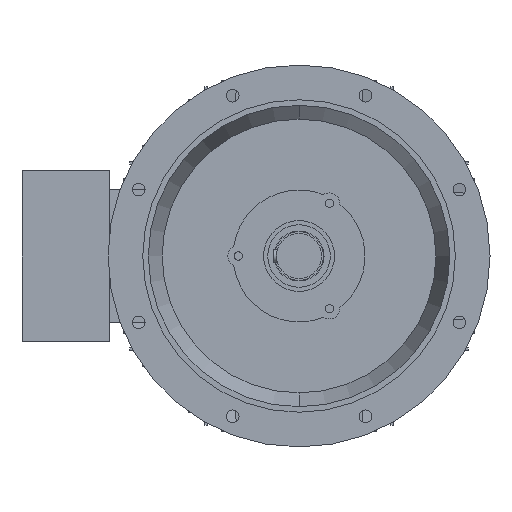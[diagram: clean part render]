
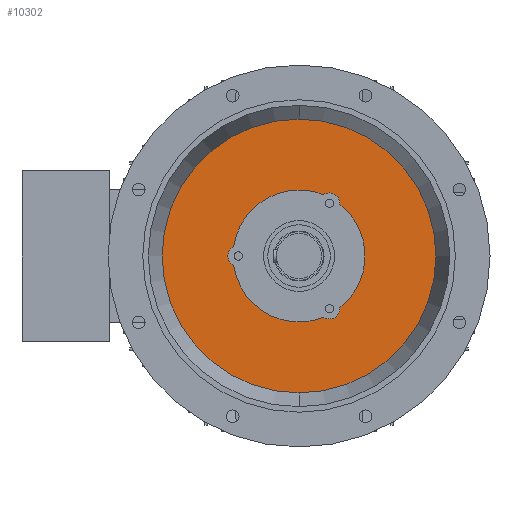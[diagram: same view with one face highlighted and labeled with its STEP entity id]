
A CAD part, left-side view. The second image highlights one B-rep face of the part: STEP entity #10302.
In plain terms, the highlighted planar face has unit normal (-1, 0, 0).
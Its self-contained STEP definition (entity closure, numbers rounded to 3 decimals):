
#3410 = CARTESIAN_POINT ( 'NONE',  ( 54.5, -58.71, -74.687 ) ) ;
#3414 = CARTESIAN_POINT ( 'NONE',  ( 54.5, 94.036, 13.501 ) ) ;
#3426 = CARTESIAN_POINT ( 'NONE',  ( 54.5, -35.325, -88.188 ) ) ;
#3459 = CARTESIAN_POINT ( 'NONE',  ( 54.5, 94.036, -13.501 ) ) ;
#3573 = DIRECTION ( 'NONE',  ( 0., 0., -1. ) ) ;
#3590 = DIRECTION ( 'NONE',  ( 1., 0., 0. ) ) ;
#3592 = CARTESIAN_POINT ( 'NONE',  ( 54.5, 95., 0. ) ) ;
#3594 = PLANE ( 'NONE',  #11891 ) ;
#5105 = CARTESIAN_POINT ( 'NONE',  ( 54.5, 0., 0. ) ) ;
#5106 = DIRECTION ( 'NONE',  ( 1., 0., 0. ) ) ;
#5108 = DIRECTION ( 'NONE',  ( 0., 0., 1. ) ) ;
#5118 = DIRECTION ( 'NONE',  ( -1., 0., 0. ) ) ;
#5152 = DIRECTION ( 'NONE',  ( 0., 0., 1. ) ) ;
#5155 = CARTESIAN_POINT ( 'NONE',  ( 54.5, 0., 0. ) ) ;
#5381 = DIRECTION ( 'NONE',  ( -1., 0., 0. ) ) ;
#5391 = DIRECTION ( 'NONE',  ( 0., 0., 1. ) ) ;
#5398 = CARTESIAN_POINT ( 'NONE',  ( 54.5, -43.75, 75.777 ) ) ;
#5548 = CARTESIAN_POINT ( 'NONE',  ( 54.5, -58.71, 74.687 ) ) ;
#5616 = CARTESIAN_POINT ( 'NONE',  ( 54.5, 0., 95. ) ) ;
#5632 = CARTESIAN_POINT ( 'NONE',  ( 54.5, -35.325, 88.188 ) ) ;
#5652 = CARTESIAN_POINT ( 'NONE',  ( 54.5, -43.75, 90.777 ) ) ;
#5658 = CARTESIAN_POINT ( 'NONE',  ( 54.5, 0., -197.164 ) ) ;
#5673 = CARTESIAN_POINT ( 'NONE',  ( 54.5, 0., 197.164 ) ) ;
#7927 = EDGE_CURVE ( 'NONE', #8701, #8711, #21919, .T. ) ;
#7941 = EDGE_CURVE ( 'NONE', #8644, #8647, #21932, .T. ) ;
#8019 = EDGE_CURVE ( 'NONE', #8583, #8677, #22084, .T. ) ;
#8583 = VERTEX_POINT ( 'NONE', #5548 ) ;
#8644 = VERTEX_POINT ( 'NONE', #5632 ) ;
#8647 = VERTEX_POINT ( 'NONE', #5616 ) ;
#8677 = VERTEX_POINT ( 'NONE', #5652 ) ;
#8701 = VERTEX_POINT ( 'NONE', #5673 ) ;
#8711 = VERTEX_POINT ( 'NONE', #5658 ) ;
#8757 = VERTEX_POINT ( 'NONE', #3414 ) ;
#8784 = VERTEX_POINT ( 'NONE', #3410 ) ;
#8800 = VERTEX_POINT ( 'NONE', #3426 ) ;
#8802 = VERTEX_POINT ( 'NONE', #3459 ) ;
#10302 = ADVANCED_FACE ( 'NONE', ( #10595, #10621 ), #3594, .F. ) ;
#10595 = FACE_OUTER_BOUND ( 'NONE', #24965, .T. ) ;
#10621 = FACE_BOUND ( 'NONE', #24987, .T. ) ;
#11891 = AXIS2_PLACEMENT_3D ( 'NONE', #3592, #3590, #3573 ) ;
#11989 = AXIS2_PLACEMENT_3D ( 'NONE', #5105, #5106, #5108 ) ;
#12041 = AXIS2_PLACEMENT_3D ( 'NONE', #5155, #5118, #5152 ) ;
#12057 = AXIS2_PLACEMENT_3D ( 'NONE', #5398, #5381, #5391 ) ;
#17229 = EDGE_CURVE ( 'NONE', #8711, #8701, #22681, .T. ) ;
#17233 = EDGE_CURVE ( 'NONE', #8647, #8757, #22666, .T. ) ;
#17243 = EDGE_CURVE ( 'NONE', #8677, #8644, #22755, .T. ) ;
#17247 = EDGE_CURVE ( 'NONE', #8757, #8802, #22763, .T. ) ;
#17265 = EDGE_CURVE ( 'NONE', #8802, #8800, #22745, .T. ) ;
#17270 = EDGE_CURVE ( 'NONE', #8784, #8583, #22760, .T. ) ;
#17337 = EDGE_CURVE ( 'NONE', #8800, #8784, #22807, .T. ) ;
#17575 = ORIENTED_EDGE ( 'NONE', *, *, #17243, .F. ) ;
#17592 = ORIENTED_EDGE ( 'NONE', *, *, #17337, .F. ) ;
#17605 = ORIENTED_EDGE ( 'NONE', *, *, #7927, .F. ) ;
#17606 = ORIENTED_EDGE ( 'NONE', *, *, #17233, .F. ) ;
#17610 = ORIENTED_EDGE ( 'NONE', *, *, #17247, .F. ) ;
#17611 = ORIENTED_EDGE ( 'NONE', *, *, #8019, .F. ) ;
#17614 = ORIENTED_EDGE ( 'NONE', *, *, #17229, .F. ) ;
#17624 = ORIENTED_EDGE ( 'NONE', *, *, #7941, .F. ) ;
#17626 = ORIENTED_EDGE ( 'NONE', *, *, #17270, .F. ) ;
#17636 = ORIENTED_EDGE ( 'NONE', *, *, #17265, .F. ) ;
#19958 = DIRECTION ( 'NONE',  ( -1., 0., 0. ) ) ;
#19971 = CARTESIAN_POINT ( 'NONE',  ( 54.5, 0., 0. ) ) ;
#19975 = DIRECTION ( 'NONE',  ( 0., 0., 1. ) ) ;
#19977 = DIRECTION ( 'NONE',  ( 0., 0., 1. ) ) ;
#19983 = DIRECTION ( 'NONE',  ( 1., 0., 0. ) ) ;
#19986 = CARTESIAN_POINT ( 'NONE',  ( 54.5, 0., 0. ) ) ;
#20003 = DIRECTION ( 'NONE',  ( 0., 0., 1. ) ) ;
#20006 = DIRECTION ( 'NONE',  ( -1., 0., 0. ) ) ;
#20012 = CARTESIAN_POINT ( 'NONE',  ( 54.5, -43.75, 75.777 ) ) ;
#20016 = DIRECTION ( 'NONE',  ( -1., 0., 0. ) ) ;
#20017 = CARTESIAN_POINT ( 'NONE',  ( 54.5, 87.5, 0. ) ) ;
#20020 = DIRECTION ( 'NONE',  ( 0., 0., 1. ) ) ;
#20067 = CARTESIAN_POINT ( 'NONE',  ( 54.5, 0., 0. ) ) ;
#20068 = DIRECTION ( 'NONE',  ( -1., 0., 0. ) ) ;
#20070 = DIRECTION ( 'NONE',  ( 0., 0., 1. ) ) ;
#20079 = CARTESIAN_POINT ( 'NONE',  ( 54.5, 0., 0. ) ) ;
#20085 = DIRECTION ( 'NONE',  ( -1., 0., 0. ) ) ;
#20106 = DIRECTION ( 'NONE',  ( 0., 0., 1. ) ) ;
#20238 = AXIS2_PLACEMENT_3D ( 'NONE', #20767, #20798, #20789 ) ;
#20767 = CARTESIAN_POINT ( 'NONE',  ( 54.5, -43.75, -75.777 ) ) ;
#20789 = DIRECTION ( 'NONE',  ( 0., 0., 1. ) ) ;
#20798 = DIRECTION ( 'NONE',  ( -1., 0., 0. ) ) ;
#21919 = CIRCLE ( 'NONE', #11989, 197.164 ) ;
#21932 = CIRCLE ( 'NONE', #12041, 95. ) ;
#22084 = CIRCLE ( 'NONE', #12057, 15. ) ;
#22666 = CIRCLE ( 'NONE', #26291, 95. ) ;
#22681 = CIRCLE ( 'NONE', #26305, 197.164 ) ;
#22745 = CIRCLE ( 'NONE', #26277, 95. ) ;
#22755 = CIRCLE ( 'NONE', #26308, 15. ) ;
#22760 = CIRCLE ( 'NONE', #26314, 95. ) ;
#22763 = CIRCLE ( 'NONE', #26313, 15. ) ;
#22807 = CIRCLE ( 'NONE', #20238, 15. ) ;
#24965 = EDGE_LOOP ( 'NONE', ( #17605, #17614 ) ) ;
#24987 = EDGE_LOOP ( 'NONE', ( #17624, #17575, #17611, #17626, #17592, #17636, #17610, #17606 ) ) ;
#26277 = AXIS2_PLACEMENT_3D ( 'NONE', #20067, #20068, #20070 ) ;
#26291 = AXIS2_PLACEMENT_3D ( 'NONE', #19971, #19958, #19977 ) ;
#26305 = AXIS2_PLACEMENT_3D ( 'NONE', #19986, #19983, #19975 ) ;
#26308 = AXIS2_PLACEMENT_3D ( 'NONE', #20012, #20006, #20003 ) ;
#26313 = AXIS2_PLACEMENT_3D ( 'NONE', #20017, #20016, #20020 ) ;
#26314 = AXIS2_PLACEMENT_3D ( 'NONE', #20079, #20085, #20106 ) ;
